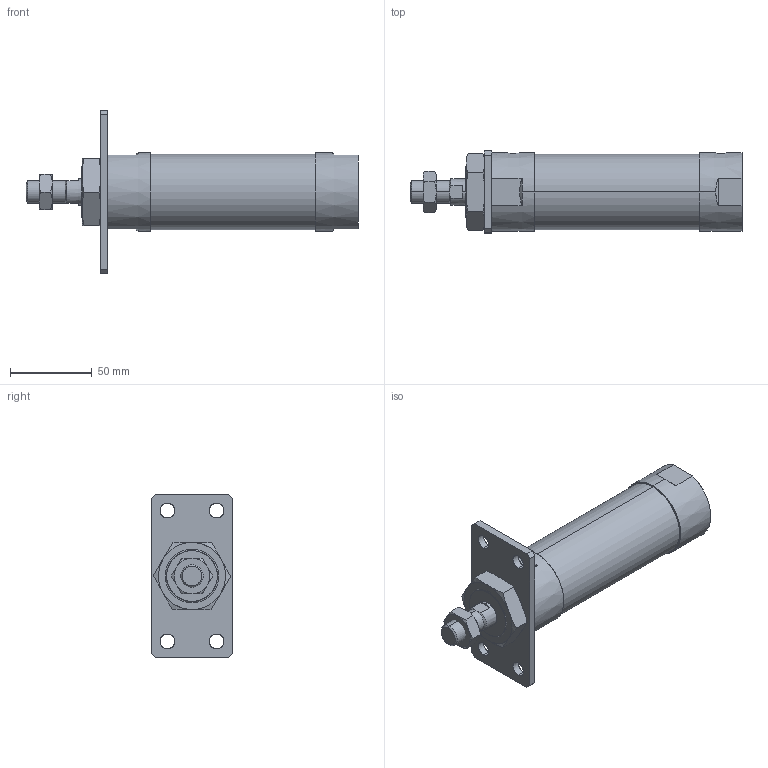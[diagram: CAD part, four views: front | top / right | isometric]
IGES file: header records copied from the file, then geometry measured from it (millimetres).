
Start section: SolidWorks IGES file using analytic representation for surfaces
Global section: file name: C:\Users\Toshiba\Desktop\JGND2-40-50-A.IGS; native system: SolidWorks 2014; preprocessor: SolidWorks 2014; author: Toshiba; date: 160804.110429; units: millimetre
Bounding box: 203 x 50 x 100 mm (x, y, z)
Surface area: 46119.7 mm2 (no closed solid volume)
Topology: 0 solids, 0 shells, 109 faces, 2174 edges, 2170 vertices
Faces by surface type: bspline 66, revolution 43
